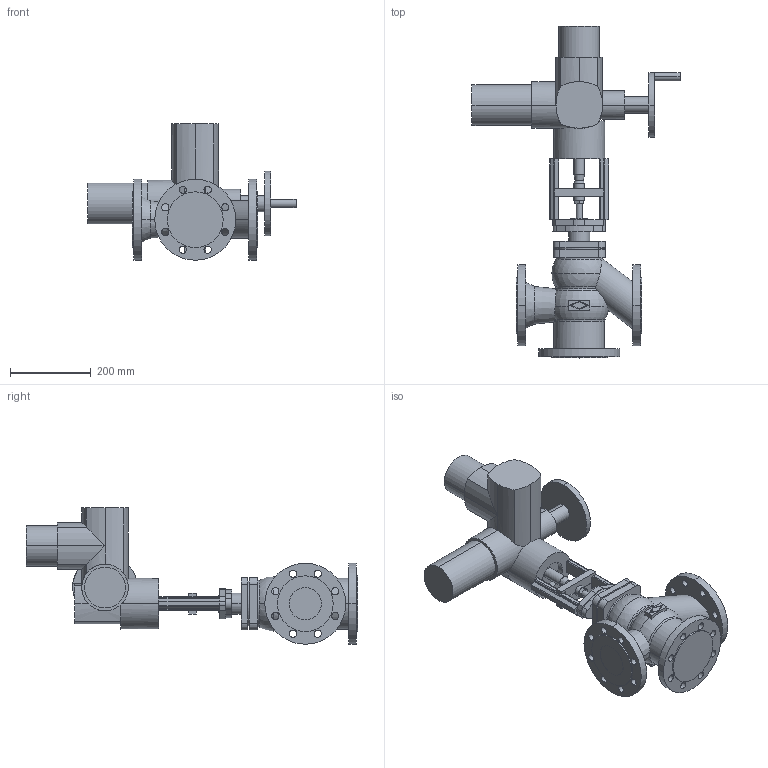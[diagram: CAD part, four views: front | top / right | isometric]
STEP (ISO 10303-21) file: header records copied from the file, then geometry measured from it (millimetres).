
FILE_DESCRIPTION(('OneSpaceDesigner STEP Export'),'2;1');
FILE_NAME('c000003155.stp','2007-01-24T10:27:31',(''),(''),'OneSpace Designer STEP processor for AP214 (Solid Model)','OneSpace Designer 14.00B 27-May-2006 (C) CoCreate Software GmbH','');
FILE_SCHEMA(('AUTOMOTIVE_DESIGN { 1 0 10303 214 1 1 1 1 }'));
Length unit declared in the file: millimetre
Products named in the file (2): 1; 2
Bounding box: 514 x 819.5 x 337 mm (x, y, z)
Volume: 15263115 mm3; surface area: 866084 mm2
Topology: 2 solids, 2 shells, 317 faces, 831 edges, 531 vertices
Faces by surface type: cylinder 164, plane 131, torus 10, cone 8, sphere 4
Entity records: 9316 total; most frequent: CARTESIAN_POINT 2051, ORIENTED_EDGE 1654, DIRECTION 1326, EDGE_CURVE 827, VERTEX_POINT 531, AXIS2_PLACEMENT_3D 455, VECTOR 416, LINE 416
